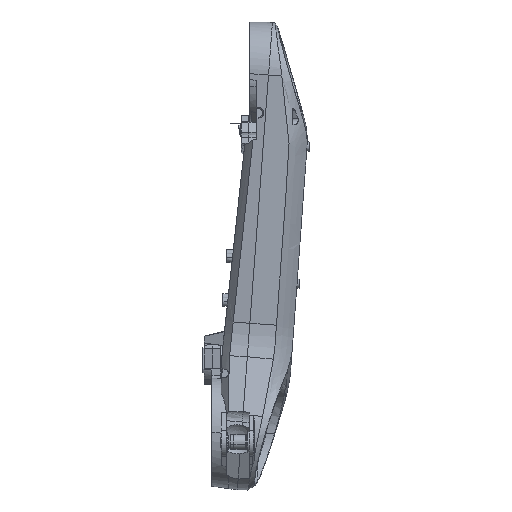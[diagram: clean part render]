
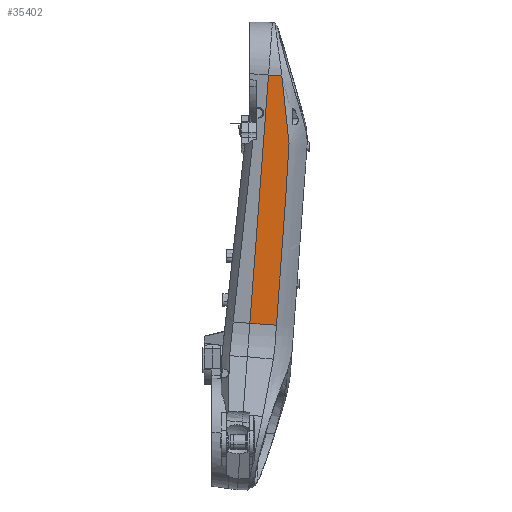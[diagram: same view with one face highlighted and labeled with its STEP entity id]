
A CAD part, left-side view. The second image highlights one B-rep face of the part: STEP entity #35402.
In plain terms, the highlighted planar face has unit normal (-0.996, -0.047, -0.073).
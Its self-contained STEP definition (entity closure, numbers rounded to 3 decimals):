
#375 = EDGE_CURVE ( 'NONE', #46103, #44664, #15591, .T. ) ;
#1216 = CARTESIAN_POINT ( 'NONE',  ( 216.232, -357.248, 1584.513 ) ) ;
#1510 = CARTESIAN_POINT ( 'NONE',  ( 245.85, -326.411, 1161.585 ) ) ;
#1787 = EDGE_LOOP ( 'NONE', ( #51791, #47657, #20406, #27697 ) ) ;
#1803 = CARTESIAN_POINT ( 'NONE',  ( 206.67, -367.235, 1721.083 ) ) ;
#2392 = CARTESIAN_POINT ( 'NONE',  ( 214.998, -358.533, 1602.135 ) ) ;
#2812 = DIRECTION ( 'NONE',  ( 0.052, -0.996, -0.071 ) ) ;
#2963 = CARTESIAN_POINT ( 'NONE',  ( 187.198, -346.033, 1972.503 ) ) ;
#3096 = LINE ( 'NONE', #7845, #42713 ) ;
#3255 = CARTESIAN_POINT ( 'NONE',  ( 193.772, -354.751, 1888.617 ) ) ;
#3848 = CARTESIAN_POINT ( 'NONE',  ( 202.79, -367.36, 1773.966 ) ) ;
#6028 = DIRECTION ( 'NONE',  ( 0.052, -0.996, -0.071 ) ) ;
#6560 = CARTESIAN_POINT ( 'NONE',  ( 205.252, -368.064, 1740.911 ) ) ;
#6862 = CARTESIAN_POINT ( 'NONE',  ( 243.999, -328.336, 1188.018 ) ) ;
#7506 = CARTESIAN_POINT ( 'NONE',  ( 242.351, -234.819, 1150.414 ) ) ;
#7714 = CARTESIAN_POINT ( 'NONE',  ( 204.12, -368.081, 1756.335 ) ) ;
#7845 = CARTESIAN_POINT ( 'NONE',  ( 242.351, -234.819, 1150.414 ) ) ;
#7995 = CARTESIAN_POINT ( 'NONE',  ( 185.793, -343.654, 1990.098 ) ) ;
#8283 = CARTESIAN_POINT ( 'NONE',  ( 188.586, -347.98, 1954.856 ) ) ;
#10134 = CARTESIAN_POINT ( 'NONE',  ( 211.296, -362.387, 1655.001 ) ) ;
#10732 = CARTESIAN_POINT ( 'NONE',  ( 206.978, -366.909, 1716.678 ) ) ;
#11033 = CARTESIAN_POINT ( 'NONE',  ( 207.594, -366.244, 1707.867 ) ) ;
#11919 = CARTESIAN_POINT ( 'NONE',  ( 201.249, -365.577, 1793.805 ) ) ;
#12501 = CARTESIAN_POINT ( 'NONE',  ( 199.682, -363.257, 1813.643 ) ) ;
#13929 = CARTESIAN_POINT ( 'NONE',  ( 247.084, -325.127, 1143.963 ) ) ;
#14399 = CARTESIAN_POINT ( 'NONE',  ( 183.407, -298.125, 1993.351 ) ) ;
#15239 = CARTESIAN_POINT ( 'NONE',  ( 208.056, -365.759, 1701.259 ) ) ;
#15538 = CARTESIAN_POINT ( 'NONE',  ( 205.73, -367.907, 1734.301 ) ) ;
#15591 = LINE ( 'NONE', #14399, #49580 ) ;
#16084 = PLANE ( 'NONE',  #21376 ) ;
#16132 = CARTESIAN_POINT ( 'NONE',  ( 201.074, -365.319, 1796.01 ) ) ;
#16418 = CARTESIAN_POINT ( 'NONE',  ( 188.24, -347.515, 1959.27 ) ) ;
#17001 = CARTESIAN_POINT ( 'NONE',  ( 197.594, -360.197, 1840.098 ) ) ;
#17242 = DIRECTION ( 'NONE',  ( 0.073, 0., -0.997 ) ) ;
#17284 = CARTESIAN_POINT ( 'NONE',  ( 189.278, -348.891, 1946.025 ) ) ;
#19682 = VECTOR ( 'NONE', #49997, 1000. ) ;
#19713 = CARTESIAN_POINT ( 'NONE',  ( 242.148, -330.264, 1214.451 ) ) ;
#20008 = CARTESIAN_POINT ( 'NONE',  ( 245.541, -326.732, 1165.99 ) ) ;
#20406 = ORIENTED_EDGE ( 'NONE', *, *, #375, .F. ) ;
#20600 = CARTESIAN_POINT ( 'NONE',  ( 183.407, -298.125, 1993.351 ) ) ;
#20820 = VERTEX_POINT ( 'NONE', #13929 ) ;
#20903 = CARTESIAN_POINT ( 'NONE',  ( 195.508, -357.185, 1866.558 ) ) ;
#21376 = AXIS2_PLACEMENT_3D ( 'NONE', #57618, #25896, #17242 ) ;
#21467 = CARTESIAN_POINT ( 'NONE',  ( 190.66, -350.666, 1928.358 ) ) ;
#22168 = CARTESIAN_POINT ( 'NONE',  ( 184.764, -296.668, 1973.944 ) ) ;
#22340 = CARTESIAN_POINT ( 'NONE',  ( 185.793, -343.654, 1990.098 ) ) ;
#23883 = CARTESIAN_POINT ( 'NONE',  ( 247.084, -325.127, 1143.963 ) ) ;
#24493 = CARTESIAN_POINT ( 'NONE',  ( 246.93, -325.282, 1146.166 ) ) ;
#24786 = CARTESIAN_POINT ( 'NONE',  ( 205.092, -368.1, 1743.114 ) ) ;
#25081 = CARTESIAN_POINT ( 'NONE',  ( 240.913, -331.547, 1232.073 ) ) ;
#25663 = CARTESIAN_POINT ( 'NONE',  ( 200.726, -364.803, 1800.418 ) ) ;
#25896 = DIRECTION ( 'NONE',  ( -0.996, -0.047, -0.073 ) ) ;
#25942 = CARTESIAN_POINT ( 'NONE',  ( 200.552, -364.546, 1802.622 ) ) ;
#26224 = CARTESIAN_POINT ( 'NONE',  ( 198.986, -362.233, 1822.461 ) ) ;
#26521 = CARTESIAN_POINT ( 'NONE',  ( 196.898, -359.185, 1848.917 ) ) ;
#27697 = ORIENTED_EDGE ( 'NONE', *, *, #57127, .T. ) ;
#28660 = CARTESIAN_POINT ( 'NONE',  ( 246.467, -325.766, 1152.774 ) ) ;
#29559 = CARTESIAN_POINT ( 'NONE',  ( 246.775, -325.444, 1148.369 ) ) ;
#29859 = CARTESIAN_POINT ( 'NONE',  ( 192.733, -353.343, 1901.858 ) ) ;
#30043 = B_SPLINE_CURVE_WITH_KNOTS ( 'NONE', 3,
 ( #23883, #24493, #29559, #28660, #47818, #1510, #20008, #52016, #6862, #19713, #25081, #55905, #42703, #56202, #1216, #2392, #32853, #46625, #10134, #42116, #33164, #51419, #15239, #33466, #11033, #51729, #10732, #1803, #38237, #15538, #6560, #24786, #42999, #34349, #7714, #35204, #53761, #3848, #44741, #30725, #11919, #16132, #25663, #25942, #12501, #26224, #17001, #26521, #20903, #58239, #3255, #57662, #29859, #49286, #39145, #21467, #30158, #17284, #8283, #16418, #57371, #2963, #57944, #53479, #48991, #48117, #7995 ),
 .UNSPECIFIED., .F., .F.,
 ( 4, 2, 2, 2, 2, 2, 1, 2, 2, 2, 2, 2, 2, 2, 2, 2, 2, 2, 2, 2, 2, 2, 2, 2, 2, 2, 2, 2, 2, 2, 2, 2, 2, 4 ),
 ( 0.01, 0.016, 0.023, 0.036, 0.063, 0.116, 0.222, 0.435, 0.488, 0.514, 0.541, 0.568, 0.574, 0.581, 0.594, 0.607, 0.614, 0.621, 0.634, 0.647, 0.661, 0.667, 0.674, 0.7, 0.727, 0.753, 0.767, 0.78, 0.807, 0.82, 0.833, 0.846, 0.853, 0.86 ),
 .UNSPECIFIED. ) ;
#30158 = CARTESIAN_POINT ( 'NONE',  ( 189.624, -349.337, 1941.608 ) ) ;
#30725 = CARTESIAN_POINT ( 'NONE',  ( 201.769, -366.301, 1787.191 ) ) ;
#30770 = EDGE_CURVE ( 'NONE', #20820, #44664, #30043, .T. ) ;
#31137 = LINE ( 'NONE', #22168, #19682 ) ;
#31504 = VERTEX_POINT ( 'NONE', #7506 ) ;
#32853 = CARTESIAN_POINT ( 'NONE',  ( 213.147, -360.46, 1628.568 ) ) ;
#33164 = CARTESIAN_POINT ( 'NONE',  ( 209.445, -364.314, 1681.434 ) ) ;
#33466 = CARTESIAN_POINT ( 'NONE',  ( 207.902, -365.919, 1703.462 ) ) ;
#34301 = FACE_OUTER_BOUND ( 'NONE', #1787, .T. ) ;
#34349 = CARTESIAN_POINT ( 'NONE',  ( 204.608, -368.133, 1749.724 ) ) ;
#35204 = CARTESIAN_POINT ( 'NONE',  ( 203.791, -367.975, 1760.742 ) ) ;
#35402 = ADVANCED_FACE ( 'NONE', ( #34301 ), #16084, .T. ) ;
#38237 = CARTESIAN_POINT ( 'NONE',  ( 206.046, -367.739, 1729.895 ) ) ;
#39145 = CARTESIAN_POINT ( 'NONE',  ( 191.35, -351.541, 1919.522 ) ) ;
#42116 = CARTESIAN_POINT ( 'NONE',  ( 210.679, -363.031, 1663.812 ) ) ;
#42703 = CARTESIAN_POINT ( 'NONE',  ( 229.807, -343.113, 1390.671 ) ) ;
#42713 = VECTOR ( 'NONE', #2812, 1000. ) ;
#42999 = CARTESIAN_POINT ( 'NONE',  ( 204.77, -368.134, 1747.521 ) ) ;
#43737 = EDGE_CURVE ( 'NONE', #31504, #20820, #3096, .T. ) ;
#44664 = VERTEX_POINT ( 'NONE', #22340 ) ;
#44741 = CARTESIAN_POINT ( 'NONE',  ( 202.111, -366.7, 1782.783 ) ) ;
#46103 = VERTEX_POINT ( 'NONE', #20600 ) ;
#46625 = CARTESIAN_POINT ( 'NONE',  ( 212.53, -361.102, 1637.379 ) ) ;
#47657 = ORIENTED_EDGE ( 'NONE', *, *, #30770, .T. ) ;
#47818 = CARTESIAN_POINT ( 'NONE',  ( 246.313, -325.927, 1154.977 ) ) ;
#48117 = CARTESIAN_POINT ( 'NONE',  ( 185.97, -343.982, 1987.903 ) ) ;
#48991 = CARTESIAN_POINT ( 'NONE',  ( 186.145, -344.268, 1985.702 ) ) ;
#49286 = CARTESIAN_POINT ( 'NONE',  ( 192.387, -352.887, 1906.274 ) ) ;
#49580 = VECTOR ( 'NONE', #6028, 1000. ) ;
#49997 = DIRECTION ( 'NONE',  ( 0.07, 0.075, -0.995 ) ) ;
#51419 = CARTESIAN_POINT ( 'NONE',  ( 208.828, -364.959, 1690.245 ) ) ;
#51729 = CARTESIAN_POINT ( 'NONE',  ( 207.44, -366.411, 1710.07 ) ) ;
#51791 = ORIENTED_EDGE ( 'NONE', *, *, #43737, .T. ) ;
#52016 = CARTESIAN_POINT ( 'NONE',  ( 244.616, -327.694, 1179.207 ) ) ;
#53479 = CARTESIAN_POINT ( 'NONE',  ( 186.497, -344.867, 1981.303 ) ) ;
#53761 = CARTESIAN_POINT ( 'NONE',  ( 203.126, -367.616, 1769.558 ) ) ;
#55905 = CARTESIAN_POINT ( 'NONE',  ( 237.211, -335.401, 1284.939 ) ) ;
#56202 = CARTESIAN_POINT ( 'NONE',  ( 222.403, -350.823, 1496.403 ) ) ;
#57127 = EDGE_CURVE ( 'NONE', #46103, #31504, #31137, .T. ) ;
#57371 = CARTESIAN_POINT ( 'NONE',  ( 187.546, -346.544, 1968.094 ) ) ;
#57618 = CARTESIAN_POINT ( 'NONE',  ( 184.764, -296.668, 1973.944 ) ) ;
#57662 = CARTESIAN_POINT ( 'NONE',  ( 193.426, -354.276, 1893.03 ) ) ;
#57944 = CARTESIAN_POINT ( 'NONE',  ( 186.672, -345.172, 1979.105 ) ) ;
#58239 = CARTESIAN_POINT ( 'NONE',  ( 194.813, -356.196, 1875.38 ) ) ;
